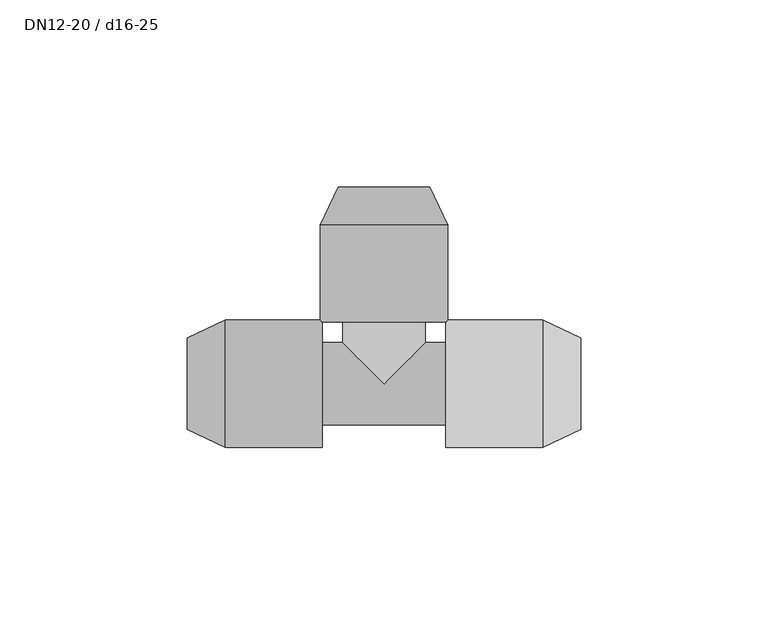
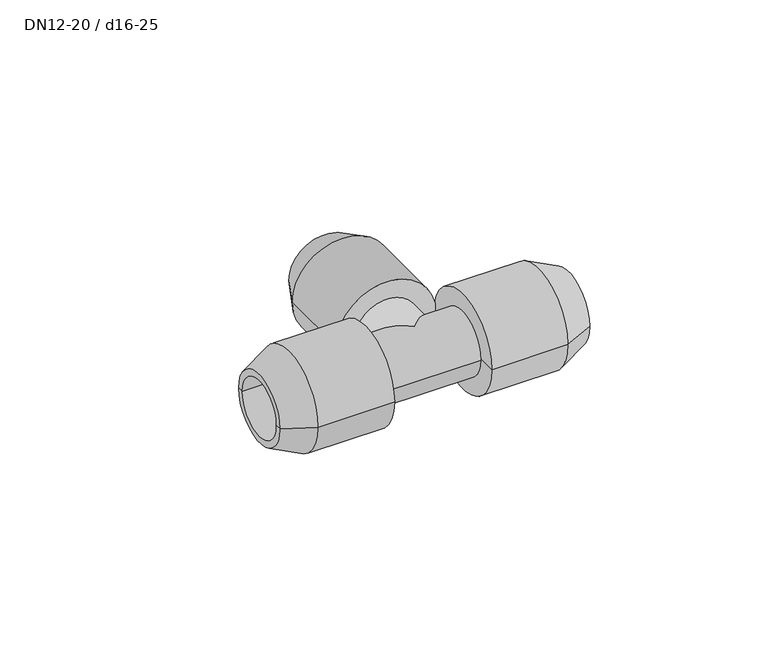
"""IFC4 building model written with IfcOpenShell, lengths in millimetres: pipe fitting geometry, NLRS_50_PIF_UN_PushFit gelijkzijdig T-stuk_geb : DN12-20 / d16-25."""

import ifcopenshell
import ifcopenshell.guid

model = None  # the IFC model being written
_history = None  # IfcOwnerHistory: only IFC2X3 demands one
_inside = {}  # id of a spatial element -> (the spatial element, [elements in it])
_under = {}  # id of a project, library or spatial element -> (it, [spatial elements below it])
_declared = {}  # id of a project -> (the project, [libraries it declares])
_typed = {}  # id of a type object -> (the type object, [elements of that type])
_made_of = {}  # id of a material, layer set ... -> (it, [elements and type objects made of it])


def new_model(schema):
    """Start an empty IFC model of exactly this schema.

    Asked for "IFC4X3", IfcOpenShell would pick the latest addendum, in which some entities
    have other attributes; the version numbers below select the first issue.
    IFC2X3 requires an IfcOwnerHistory on every rooted entity: one is made here for all.
    """
    global model, _history
    if schema == "IFC4X3":
        model = ifcopenshell.file(schema_version=(4, 3, 0, 0))
    else:
        model = ifcopenshell.file(schema=schema)
    _inside.clear()
    _under.clear()
    _declared.clear()
    _typed.clear()
    _made_of.clear()
    _history = None
    if model.schema == "IFC2X3":
        org = make("IfcOrganization", Name="unknown")
        user = make(
            "IfcPersonAndOrganization",
            ThePerson=make("IfcPerson", FamilyName="unknown"),
            TheOrganization=org,
        )
        app = make(
            "IfcApplication",
            ApplicationDeveloper=org,
            Version="unknown",
            ApplicationFullName="unknown",
            ApplicationIdentifier="unknown",
        )
        _history = make(
            "IfcOwnerHistory",
            OwningUser=user,
            OwningApplication=app,
            ChangeAction="ADDED",
            CreationDate=0,
        )
    return model


def make(cls, **values):
    """One entity of the class cls with the attributes given. An attribute that is None is left unset."""
    return model.create_entity(
        cls, **{name: value for name, value in values.items() if value is not None}
    )


def rooted(cls, **values):
    """An entity with a GlobalId (a new one), such as an element, a storey or a relation."""
    return make(cls, GlobalId=ifcopenshell.guid.new(), OwnerHistory=_history, **values)


def si_unit(unit_type, name, prefix=None):
    """IfcSIUnit, for example si_unit("LENGTHUNIT", "METRE", prefix="MILLI")."""
    return make("IfcSIUnit", UnitType=unit_type, Prefix=prefix, Name=name)


def assignment(units):
    """IfcUnitAssignment: the units of a project."""
    return None if units is None else make("IfcUnitAssignment", Units=units)


def point(xyz):
    """IfcCartesianPoint."""
    return None if xyz is None else make("IfcCartesianPoint", Coordinates=xyz)


def direction(xyz):
    """IfcDirection."""
    return None if xyz is None else make("IfcDirection", DirectionRatios=xyz)


def frame(location, z_axis=None, x_axis=None):
    """IfcAxis2Placement3D, a coordinate frame: its origin and axes. An axis left out is left unset."""
    return make(
        "IfcAxis2Placement3D",
        Location=point(location),
        Axis=direction(z_axis),
        RefDirection=direction(x_axis),
    )


def origin():
    """The frame at (0, 0, 0) with its axes left unset."""
    return frame((0.0, 0.0, 0.0))


def place(relative_to, where):
    """IfcLocalPlacement: puts the frame where relative to a parent placement (None: the world)."""
    return make(
        "IfcLocalPlacement", PlacementRelTo=relative_to, RelativePlacement=where
    )


def context(
    kind, dimensions, precision=None, world=None, true_north=None, identifier=None
):
    """IfcGeometricRepresentationContext, for example the 3D "Model" context."""
    return make(
        "IfcGeometricRepresentationContext",
        ContextIdentifier=identifier,
        ContextType=kind,
        CoordinateSpaceDimension=dimensions,
        Precision=precision,
        WorldCoordinateSystem=world,
        TrueNorth=true_north,
    )


def project(units=None, contexts=None):
    """IfcProject with its units and contexts."""
    return rooted(
        "IfcProject",
        Name="project",
        RepresentationContexts=contexts,
        UnitsInContext=assignment(units),
    )


def spatial(cls, under=None, at=None, **own):
    """A site, building, storey or space (cls), placed at a placement, below another one or the project."""
    s = rooted(cls, ObjectPlacement=at, **own)
    if under is not None:
        _under.setdefault(under.id(), (under, []))[1].append(s)
    return s


def polyline(points):
    """IfcPolyline through the points."""
    return make("IfcPolyline", Points=[point(p) for p in points])


def circle_curve(where, radius):
    """IfcCircle in the frame where."""
    return make("IfcCircle", Position=where, Radius=radius)


def ellipse_curve(where, semi_axis1, semi_axis2):
    """IfcEllipse in the frame where."""
    return make(
        "IfcEllipse", Position=where, SemiAxis1=semi_axis1, SemiAxis2=semi_axis2
    )


def shape(context_of_items, identifier, shape_type, items):
    """IfcShapeRepresentation: the items that make up one representation, for example the "Body"."""
    return make(
        "IfcShapeRepresentation",
        ContextOfItems=context_of_items,
        RepresentationIdentifier=identifier,
        RepresentationType=shape_type,
        Items=items,
    )


def source(mapping_origin, context_of_items, identifier, shape_type, items):
    """IfcRepresentationMap: a shape defined once, which mapped items show again and again."""
    return make(
        "IfcRepresentationMap",
        MappingOrigin=mapping_origin,
        MappedRepresentation=shape(context_of_items, identifier, shape_type, items),
    )


def transform(
    local_origin,
    x_axis=None,
    y_axis=None,
    z_axis=None,
    scale=None,
    scale2=None,
    scale3=None,
    uniform=True,
):
    """IfcCartesianTransformationOperator3D, or its non-uniform kind. x_axis, y_axis, z_axis: its Axis1, 2, 3."""
    if uniform:
        return make(
            "IfcCartesianTransformationOperator3D",
            Axis1=direction(x_axis),
            Axis2=direction(y_axis),
            LocalOrigin=point(local_origin),
            Scale=scale,
            Axis3=direction(z_axis),
        )
    return make(
        "IfcCartesianTransformationOperator3DnonUniform",
        Axis1=direction(x_axis),
        Axis2=direction(y_axis),
        LocalOrigin=point(local_origin),
        Scale=scale,
        Axis3=direction(z_axis),
        Scale2=scale2,
        Scale3=scale3,
    )


def mapped(mapping_source, mapping_target):
    """IfcMappedItem: shows the shape of a source again, moved by a transform."""
    return make(
        "IfcMappedItem", MappingSource=mapping_source, MappingTarget=mapping_target
    )


def made_of(thing, what):
    """Note that an element or type object is made of a material, layer set ...; save() writes the relation."""
    if what is not None:
        _made_of.setdefault(what.id(), (what, []))[1].append(thing)
    return thing


def element(
    cls,
    number,
    at=None,
    inside=None,
    cuts=None,
    type_object=None,
    material=None,
    context=None,
    identifier="Body",
    shape_type=None,
    held_by="IfcProductDefinitionShape",
    body=None,
    shapes=None,
    **own,
):
    """One element of the class cls, such as IfcWall. Its Tag is "e" and its number.

    at: its placement. inside: the storey or other place that contains it. cuts: it is an
    opening in that element (IfcRelVoidsElement). A single representation is given by context,
    identifier, shape_type and body (its items); several are given by shapes. held_by: the class
    of the entity that holds the representations. save() writes the other relations.
    """
    e = rooted(cls, Tag="e%d" % number, ObjectPlacement=at, **own)
    if body is not None:
        shapes = [shape(context, identifier, shape_type, body)]
    if shapes is not None:
        e.Representation = make(held_by, Representations=shapes)
    if inside is not None:
        _inside.setdefault(inside.id(), (inside, []))[1].append(e)
    if cuts is not None:
        rooted(
            "IfcRelVoidsElement", RelatingBuildingElement=cuts, RelatedOpeningElement=e
        )
    if type_object is not None:
        _typed.setdefault(type_object.id(), (type_object, []))[1].append(e)
    return made_of(e, material)


def aggregate(whole, parts):
    """IfcRelAggregates: a whole, such as a stair, and the parts it consists of."""
    return rooted("IfcRelAggregates", RelatingObject=whole, RelatedObjects=parts)


def save(model, path):
    """Write the relations noted so far, then the file.

    IfcRelAggregates (storeys below a building ...), IfcRelContainedInSpatialStructure (elements
    in a storey), IfcRelDefinesByType, IfcRelAssociatesMaterial and IfcRelDeclares: one each for
    every whole, place, type object, material and project.
    """
    for whole, parts in _under.values():
        aggregate(whole, parts)
    for where, things in _inside.values():
        rooted(
            "IfcRelContainedInSpatialStructure",
            RelatedElements=things,
            RelatingStructure=where,
        )
    for kind, things in _typed.values():
        rooted("IfcRelDefinesByType", RelatedObjects=things, RelatingType=kind)
    for what, things in _made_of.values():
        rooted("IfcRelAssociatesMaterial", RelatedObjects=things, RelatingMaterial=what)
    for by, libraries in _declared.values():
        rooted("IfcRelDeclares", RelatingContext=by, RelatedDefinitions=libraries)
    model.write(path)


def plane_surface(at):
    """IfcPlane: the flat surface through the origin of the frame at, square to its z axis."""
    return make("IfcPlane", Position=at)


def cylinder_surface(at, radius):
    """IfcCylindricalSurface: all points at the distance radius from the z axis of the frame at."""
    return make("IfcCylindricalSurface", Position=at, Radius=radius)


def revolved_surface(curve, axis_point, axis_direction):
    """IfcSurfaceOfRevolution: the curve turned about the line through axis_point along axis_direction."""
    return make(
        "IfcSurfaceOfRevolution",
        SweptCurve=make("IfcArbitraryOpenProfileDef", ProfileType="CURVE", Curve=curve),
        AxisPosition=make("IfcAxis1Placement", Location=point(axis_point), Axis=direction(axis_direction)),
    )


def advanced_brep(points, edges, surfaces, faces):
    """IfcAdvancedBrep: a solid bounded by faces that lie on surfaces and meet in shared edges.

    An edge is (start, end): straight between two places in points (the first is 0);
    or (start, end, curve); or (start, end, curve, False) where it runs against its curve.
    A face is (place in surfaces, loops), or (place, loops, False) where it looks against
    its surface's normal. A loop lists edges by number (the first is 1), with a minus sign
    where the edge is run from its end to its start. The first loop is the outer one.
    """
    corners = [point(p) for p in points]
    vertices = [make("IfcVertexPoint", VertexGeometry=c) for c in corners]
    made = []
    for start, end, *more in edges:
        made.append(
            make(
                "IfcEdgeCurve",
                EdgeStart=vertices[start],
                EdgeEnd=vertices[end],
                EdgeGeometry=more[0] if more else make("IfcPolyline", Points=[corners[start], corners[end]]),
                SameSense=more[1] if len(more) > 1 else True,
            )
        )
    hull = []
    for where, loops, *sense in faces:
        bounds = []
        for j, loop in enumerate(loops):
            ring = [make("IfcOrientedEdge", EdgeElement=made[abs(k) - 1], Orientation=k > 0) for k in loop]
            bounds.append(
                make(
                    "IfcFaceOuterBound" if j == 0 else "IfcFaceBound",
                    Bound=make("IfcEdgeLoop", EdgeList=ring),
                    Orientation=True,
                )
            )
        hull.append(make("IfcAdvancedFace", Bounds=bounds, FaceSurface=surfaces[where], SameSense=sense[0] if sense else True))
    return make("IfcAdvancedBrep", Outer=make("IfcClosedShell", CfsFaces=hull))


def dn12_20_d16_25_7a63371c(model_context):
    return source(origin(), model_context, "Body", "AdvancedBrep", [
        advanced_brep(
        [(-17.0, 16.5, 0.0), (17.0, 16.5, 0.0), (0.0, 16.5, 0.0), (-17.0, 42.3135921, 0.0), (17.0, 42.3135921, 0.0), (-12.25, 52.5, 0.0), (12.25, 52.5, 0.0), (-10.0, 27.0, 0.0), (10.0, 27.0, 0.0), (10.0, 52.5, 0.0), (-10.0, 52.5, 0.0), (0.0, 27.0, 0.0)],
        [
            (0, 1, circle_curve(frame((0.0, 16.5, 0.0), z_axis=(0.0, -1.0, 0.0), x_axis=(1.0, 0.0, 0.0)), 17.0)),
            (1, 2),
            (2, 0),
            (1, 0, circle_curve(frame((0.0, 16.5, 0.0), z_axis=(0.0, -1.0, 0.0), x_axis=(1.0, 0.0, 0.0)), 17.0)),
            (3, 4, circle_curve(frame((0.0, 42.3135921, 0.0), z_axis=(0.0, -1.0, 0.0), x_axis=(1.0, 0.0, 0.0)), 17.0)),
            (4, 1),
            (0, 3),
            (4, 3, circle_curve(frame((0.0, 42.3135921, 0.0), z_axis=(0.0, -1.0, 0.0), x_axis=(1.0, 0.0, 0.0)), 17.0)),
            (5, 6, circle_curve(frame((0.0, 52.5, 0.0), z_axis=(0.0, -1.0, 0.0), x_axis=(1.0, 0.0, 0.0)), 12.25)),
            (6, 4),
            (3, 5),
            (6, 5, circle_curve(frame((0.0, 52.5, 0.0), z_axis=(0.0, -1.0, 0.0), x_axis=(1.0, 0.0, 0.0)), 12.25)),
            (7, 8, circle_curve(frame((0.0, 27.0, 0.0), z_axis=(0.0, -1.0, 0.0), x_axis=(1.0, 0.0, 0.0)), 10.0)),
            (8, 9),
            (9, 10, circle_curve(frame((0.0, 52.5, 0.0), z_axis=(0.0, 1.0, 0.0), x_axis=(1.0, 0.0, 0.0)), 10.0)),
            (10, 7),
            (8, 7, circle_curve(frame((0.0, 27.0, 0.0), z_axis=(0.0, -1.0, 0.0), x_axis=(1.0, 0.0, 0.0)), 10.0)),
            (10, 9, circle_curve(frame((0.0, 52.5, 0.0), z_axis=(0.0, 1.0, 0.0), x_axis=(1.0, 0.0, 0.0)), 10.0)),
            (11, 8),
            (7, 11),
            (9, 6),
            (5, 10),
        ],
        [
            plane_surface(frame((0.0, 16.5, 0.0), z_axis=(0.0, -1.0, 0.0), x_axis=(1.0, 0.0, 0.0))),
            cylinder_surface(frame((0.0, 62.5, 0.0), z_axis=(0.0, 1.0, 0.0), x_axis=(1.0, 0.0, 0.0)), 17.0),
            revolved_surface(polyline([(17.0, 42.3135921, 0.0), (12.25, 52.5, 0.0)]), (0.0, 62.5, 0.0), (0.0, 1.0, 0.0)),
            revolved_surface(polyline([(10.0, 52.5, 0.0), (10.0, 27.0, 0.0)]), (0.0, 62.5, 0.0), (0.0, 1.0, 0.0)),
            plane_surface(frame((0.0, 27.0, 0.0), z_axis=(0.0, 1.0, 0.0), x_axis=(1.0, 0.0, 0.0))),
            plane_surface(frame((0.0, 52.5, 0.0), z_axis=(0.0, 1.0, 0.0), x_axis=(1.0, 0.0, 0.0))),
        ],
        [
            (0, [[1, 2, 3]]),
            (0, [[4, -3, -2]]),
            (1, [[5, 6, -1, 7]]),
            (1, [[8, -7, -4, -6]]),
            (2, [[9, 10, -5, 11]]),
            (2, [[12, -11, -8, -10]]),
            (3, [[13, 14, 15, 16]]),
            (3, [[17, -16, 18, -14]]),
            (4, [[19, -13, 20]]),
            (4, [[-20, -17, -19]]),
            (5, [[-15, 21, -9, 22]]),
            (5, [[-18, -22, -12, -21]]),
        ],
    ),
        advanced_brep(
        [(16.5, 17.0, 0.0), (16.5, -17.0, 0.0), (16.5, 0.0, 0.0), (42.3135921, 17.0, 0.0), (42.3135921, -17.0, 0.0), (52.5, 12.25, 0.0), (52.5, -12.25, 0.0), (27.0, 10.0, 0.0), (27.0, -10.0, 0.0), (52.5, -10.0, 0.0), (52.5, 10.0, 0.0), (27.0, 0.0, 0.0)],
        [
            (0, 1, circle_curve(frame((16.5, 0.0, 0.0), z_axis=(-1.0, 0.0, 0.0), x_axis=(0.0, -1.0, 0.0)), 17.0)),
            (1, 2),
            (2, 0),
            (1, 0, circle_curve(frame((16.5, 0.0, 0.0), z_axis=(-1.0, 0.0, 0.0), x_axis=(0.0, -1.0, 0.0)), 17.0)),
            (3, 4, circle_curve(frame((42.3135921, 0.0, 0.0), z_axis=(-1.0, 0.0, 0.0), x_axis=(0.0, -1.0, 0.0)), 17.0)),
            (4, 1),
            (0, 3),
            (4, 3, circle_curve(frame((42.3135921, 0.0, 0.0), z_axis=(-1.0, 0.0, 0.0), x_axis=(0.0, -1.0, 0.0)), 17.0)),
            (5, 6, circle_curve(frame((52.5, 0.0, 0.0), z_axis=(-1.0, 0.0, 0.0), x_axis=(0.0, -1.0, 0.0)), 12.25)),
            (6, 4),
            (3, 5),
            (6, 5, circle_curve(frame((52.5, 0.0, 0.0), z_axis=(-1.0, 0.0, 0.0), x_axis=(0.0, -1.0, 0.0)), 12.25)),
            (7, 8, circle_curve(frame((27.0, 0.0, 0.0), z_axis=(-1.0, 0.0, 0.0), x_axis=(0.0, -1.0, 0.0)), 10.0)),
            (8, 9),
            (9, 10, circle_curve(frame((52.5, 0.0, 0.0), z_axis=(1.0, 0.0, 0.0), x_axis=(0.0, -1.0, 0.0)), 10.0)),
            (10, 7),
            (8, 7, circle_curve(frame((27.0, 0.0, 0.0), z_axis=(-1.0, 0.0, 0.0), x_axis=(0.0, -1.0, 0.0)), 10.0)),
            (10, 9, circle_curve(frame((52.5, 0.0, 0.0), z_axis=(1.0, 0.0, 0.0), x_axis=(0.0, -1.0, 0.0)), 10.0)),
            (11, 8),
            (7, 11),
            (9, 6),
            (5, 10),
        ],
        [
            plane_surface(frame((16.5, 0.0, 0.0), z_axis=(-1.0, 0.0, 0.0), x_axis=(0.0, -1.0, 0.0))),
            cylinder_surface(frame((62.5, 0.0, 0.0), z_axis=(1.0, 0.0, 0.0), x_axis=(0.0, -1.0, 0.0)), 17.0),
            revolved_surface(polyline([(42.3135921, -17.0, 0.0), (52.5, -12.25, 0.0)]), (62.5, 0.0, 0.0), (1.0, 0.0, 0.0)),
            revolved_surface(polyline([(52.5, -10.0, 0.0), (27.0, -10.0, 0.0)]), (62.5, 0.0, 0.0), (1.0, 0.0, 0.0)),
            plane_surface(frame((27.0, 0.0, 0.0), z_axis=(1.0, 0.0, 0.0), x_axis=(0.0, -1.0, 0.0))),
            plane_surface(frame((52.5, 0.0, 0.0), z_axis=(1.0, 0.0, 0.0), x_axis=(0.0, -1.0, 0.0))),
        ],
        [
            (0, [[1, 2, 3]]),
            (0, [[4, -3, -2]]),
            (1, [[5, 6, -1, 7]]),
            (1, [[8, -7, -4, -6]]),
            (2, [[9, 10, -5, 11]]),
            (2, [[12, -11, -8, -10]]),
            (3, [[13, 14, 15, 16]]),
            (3, [[17, -16, 18, -14]]),
            (4, [[19, -13, 20]]),
            (4, [[-20, -17, -19]]),
            (5, [[-15, 21, -9, 22]]),
            (5, [[-18, -22, -12, -21]]),
        ],
    ),
        advanced_brep(
        [(-16.5, -17.0, 0.0), (-16.5, 17.0, 0.0), (-16.5, 0.0, 0.0), (-42.3135921, -17.0, 0.0), (-42.3135921, 17.0, 0.0), (-52.5, -12.25, 0.0), (-52.5, 12.25, 0.0), (-27.0, -10.0, 0.0), (-27.0, 10.0, 0.0), (-52.5, 10.0, 0.0), (-52.5, -10.0, 0.0), (-27.0, 0.0, 0.0)],
        [
            (0, 1, circle_curve(frame((-16.5, 0.0, 0.0), z_axis=(1.0, 0.0, 0.0), x_axis=(0.0, 1.0, 0.0)), 17.0)),
            (1, 2),
            (2, 0),
            (1, 0, circle_curve(frame((-16.5, 0.0, 0.0), z_axis=(1.0, 0.0, 0.0), x_axis=(0.0, 1.0, 0.0)), 17.0)),
            (3, 4, circle_curve(frame((-42.3135921, 0.0, 0.0), z_axis=(1.0, 0.0, 0.0), x_axis=(0.0, 1.0, 0.0)), 17.0)),
            (4, 1),
            (0, 3),
            (4, 3, circle_curve(frame((-42.3135921, 0.0, 0.0), z_axis=(1.0, 0.0, 0.0), x_axis=(0.0, 1.0, 0.0)), 17.0)),
            (5, 6, circle_curve(frame((-52.5, 0.0, 0.0), z_axis=(1.0, 0.0, 0.0), x_axis=(0.0, 1.0, 0.0)), 12.25)),
            (6, 4),
            (3, 5),
            (6, 5, circle_curve(frame((-52.5, 0.0, 0.0), z_axis=(1.0, 0.0, 0.0), x_axis=(0.0, 1.0, 0.0)), 12.25)),
            (7, 8, circle_curve(frame((-27.0, 0.0, 0.0), z_axis=(1.0, 0.0, 0.0), x_axis=(0.0, 1.0, 0.0)), 10.0)),
            (8, 9),
            (9, 10, circle_curve(frame((-52.5, 0.0, 0.0), z_axis=(-1.0, 0.0, 0.0), x_axis=(0.0, 1.0, 0.0)), 10.0)),
            (10, 7),
            (8, 7, circle_curve(frame((-27.0, 0.0, 0.0), z_axis=(1.0, 0.0, 0.0), x_axis=(0.0, 1.0, 0.0)), 10.0)),
            (10, 9, circle_curve(frame((-52.5, 0.0, 0.0), z_axis=(-1.0, 0.0, 0.0), x_axis=(0.0, 1.0, 0.0)), 10.0)),
            (11, 8),
            (7, 11),
            (9, 6),
            (5, 10),
        ],
        [
            plane_surface(frame((-16.5, 0.0, 0.0), z_axis=(1.0, 0.0, 0.0), x_axis=(0.0, 1.0, 0.0))),
            cylinder_surface(frame((-62.5, 0.0, 0.0), z_axis=(-1.0, 0.0, 0.0), x_axis=(0.0, 1.0, 0.0)), 17.0),
            revolved_surface(polyline([(-42.3135921, 17.0, 0.0), (-52.5, 12.25, 0.0)]), (-62.5, 0.0, 0.0), (-1.0, 0.0, 0.0)),
            revolved_surface(polyline([(-52.5, 10.0, 0.0), (-27.0, 10.0, 0.0)]), (-62.5, 0.0, 0.0), (-1.0, 0.0, 0.0)),
            plane_surface(frame((-27.0, 0.0, 0.0), z_axis=(-1.0, 0.0, 0.0), x_axis=(0.0, 1.0, 0.0))),
            plane_surface(frame((-52.5, 0.0, 0.0), z_axis=(-1.0, 0.0, 0.0), x_axis=(0.0, 1.0, 0.0))),
        ],
        [
            (0, [[1, 2, 3]]),
            (0, [[4, -3, -2]]),
            (1, [[5, 6, -1, 7]]),
            (1, [[8, -7, -4, -6]]),
            (2, [[9, 10, -5, 11]]),
            (2, [[12, -11, -8, -10]]),
            (3, [[13, 14, 15, 16]]),
            (3, [[17, -16, 18, -14]]),
            (4, [[19, -13, 20]]),
            (4, [[-20, -17, -19]]),
            (5, [[-15, 21, -9, 22]]),
            (5, [[-18, -22, -12, -21]]),
        ],
    ),
        advanced_brep(
        [(11.0, 16.5, 0.0), (-11.0, 16.5, 0.0), (-11.0, 11.0, 0.0), (0.0, 0.0, 11.0), (11.0, 11.0, 0.0), (0.0, 0.0, -11.0), (-16.5, -11.0, 0.0), (-16.5, 11.0, 0.0), (16.5, -11.0, 0.0), (16.5, 11.0, 0.0)],
        [
            (0, 1, circle_curve(frame((0.0, 16.5, 0.0), z_axis=(0.0, 1.0, 0.0), x_axis=(-1.0, 0.0, 0.0)), 11.0)),
            (1, 0, circle_curve(frame((0.0, 16.5, 0.0), z_axis=(0.0, 1.0, 0.0), x_axis=(-1.0, 0.0, 0.0)), 11.0)),
            (1, 2),
            (2, 3, ellipse_curve(frame((0.0, 0.0, 0.0), z_axis=(0.7071067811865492, 0.7071067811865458, 0.0), x_axis=(0.7071067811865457, -0.7071067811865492, 0.0)), 15.5563492, 11.0)),
            (3, 4, ellipse_curve(frame((0.0, 0.0, 0.0), z_axis=(-0.7071067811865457, 0.7071067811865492, 0.0), x_axis=(-0.7071067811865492, -0.7071067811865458, 0.0)), 15.5563492, 11.0)),
            (4, 0),
            (4, 5, ellipse_curve(frame((0.0, 0.0, 0.0), z_axis=(-0.7071067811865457, 0.7071067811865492, 0.0), x_axis=(-0.7071067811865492, -0.7071067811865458, 0.0)), 15.5563492, 11.0)),
            (5, 2, ellipse_curve(frame((0.0, 0.0, 0.0), z_axis=(0.7071067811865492, 0.7071067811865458, 0.0), x_axis=(0.7071067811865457, -0.7071067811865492, 0.0)), 15.5563492, 11.0)),
            (6, 7, circle_curve(frame((-16.5, 0.0, 0.0), z_axis=(-1.0, 0.0, 0.0), x_axis=(0.0, 1.0, 0.0)), 11.0)),
            (7, 6, circle_curve(frame((-16.5, 0.0, 0.0), z_axis=(-1.0, 0.0, 0.0), x_axis=(0.0, 1.0, 0.0)), 11.0)),
            (8, 9, circle_curve(frame((16.5, 0.0, 0.0), z_axis=(1.0, 0.0, 0.0), x_axis=(0.0, 1.0, 0.0)), 11.0)),
            (9, 8, circle_curve(frame((16.5, 0.0, 0.0), z_axis=(1.0, 0.0, 0.0), x_axis=(0.0, 1.0, 0.0)), 11.0)),
            (6, 8),
            (9, 4),
            (2, 7),
        ],
        [
            plane_surface(frame((0.0, 16.5, 0.0), z_axis=(0.0, 1.0, 0.0), x_axis=(0.0, 0.0, 1.0))),
            cylinder_surface(frame((0.0, 0.0, 0.0), z_axis=(0.0, -1.0, 0.0), x_axis=(-1.0, 0.0, 0.0)), 11.0),
            plane_surface(frame((-16.5, 0.0, 0.0), z_axis=(-1.0, 0.0, 0.0), x_axis=(0.0, 0.0, 1.0))),
            plane_surface(frame((16.5, 0.0, 0.0), z_axis=(1.0, 0.0, 0.0), x_axis=(0.0, 0.0, 1.0))),
            cylinder_surface(frame((-16.5, 0.0, 0.0), z_axis=(-1.0, 0.0, 0.0), x_axis=(0.0, 1.0, 0.0)), 11.0),
        ],
        [
            (0, [[1, 2]]),
            (1, [[-2, 3, 4, 5, 6]]),
            (1, [[-1, -6, 7, 8, -3]]),
            (2, [[9, 10]]),
            (3, [[11, 12]]),
            (4, [[-9, 13, -12, 14, -5, -4, 15]]),
            (4, [[-10, -15, -8, -7, -14, -11, -13]]),
        ],
    ),
    ])


if __name__ == "__main__":
    model = new_model("IFC4")
    model_context = context("Model", 3, world=origin())
    ifc_project = project(units=[si_unit("LENGTHUNIT", "METRE", prefix="MILLI")], contexts=[model_context])
    site = spatial("IfcSite", under=ifc_project)
    building = spatial("IfcBuilding", under=site)
    placement = place(None, origin())
    dn12_20_d16_25_shape = dn12_20_d16_25_7a63371c(model_context)
    element("IfcPipeFitting", 1, ObjectType="NLRS_50_PIF_UN_PushFit gelijkzijdig T-stuk_geb : DN12-20 / d16-25", at=placement, inside=building, context=model_context, shape_type="MappedRepresentation", body=[
        mapped(dn12_20_d16_25_shape, transform((0.0, 0.0, 0.0), x_axis=(1.0, 0.0, 0.0), y_axis=(0.0, 1.0, 0.0), z_axis=(0.0, 0.0, 1.0))),
    ])
    save(model, "model.ifc")
